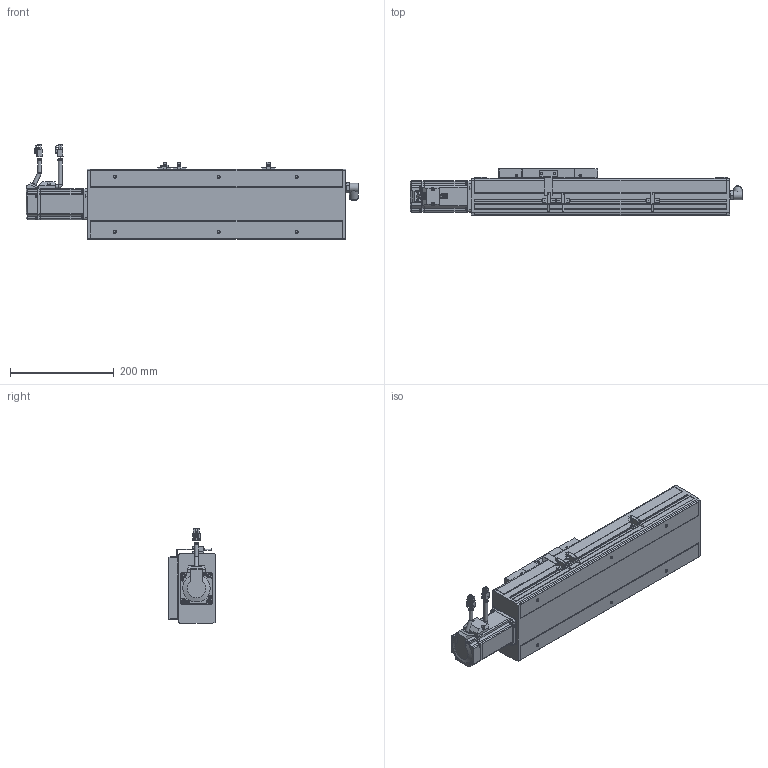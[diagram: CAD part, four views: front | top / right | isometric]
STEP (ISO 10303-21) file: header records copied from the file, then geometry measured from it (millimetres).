
FILE_DESCRIPTION(/* description */ ('STEP AP214'),/* implementation_level */ '2;1');
FILE_NAME(/* name */ 'PSC140-L05-S200-BC-P40-C1-N(0)',/* time_stamp */ '2022-06-13T03:12:56+02:00',/* author */ ('License CC BY-ND 4.0'),/* organization */ ('CADENAS'),/* preprocessor_version */ 'ST-DEVELOPER v18.102',/* originating_system */ 'PARTsolutions',/* authorisation */ ' ');
FILE_SCHEMA (('AUTOMOTIVE_DESIGN {1 0 10303 214 3 1 1}'));
Length unit declared in the file: millimetre
Products named in the file (10): PSC140-L05-S200-BC-P40-C1-N(0); P40-s2; P40-c2; P40-s1; P40-c1; P40-p1; PSC140-sensor; PSC140-BC-SLIDER; PSC140-S200-BC-P40-C1_BODY1; PSC140-L05-S200-BC-P40-C1-N(0)_dummy
Assembly tree (11 placements, depth 2):
  PSC140-L05-S200-BC-P40-C1-N(0)
    P40-s2
    P40-c2
    P40-s1
    P40-c1
    P40-p1
    PSC140-sensor  x3
    PSC140-BC-SLIDER
    PSC140-S200-BC-P40-C1_BODY1
    PSC140-L05-S200-BC-P40-C1-N(0)_dummy
Bounding box: 639 x 91 x 182.48 mm (x, y, z)
Volume: 5465412.2 mm3; surface area: 379805.7 mm2
Topology: 10 solids, 10 shells, 1232 faces, 3190 edges, 2109 vertices
Faces by surface type: plane 860, cylinder 311, cone 42, torus 19
Full cylindrical faces by diameter (mm): 1 x8, 2.6 x10, 2.8 x3, 3.3 x8, 4.5 x12, 4.6 x3, 4.917 x10, 5 x4, 5.5 x8, 6 x10, 6.08 x4, 7 x10, 9 x2, 10 x1, 11 x1, 13.74 x1, 14 x1, 16.4 x2, 16.5 x1, 19.98 x1, 31.98 x1, 35.5 x1, 50 x2
Entity records: 34118 total; most frequent: CARTESIAN_POINT 5965, DIRECTION 5731, ORIENTED_EDGE 5546, EDGE_CURVE 2773, LINE 2109, VECTOR 2109, VERTEX_POINT 1930, AXIS2_PLACEMENT_3D 1811
